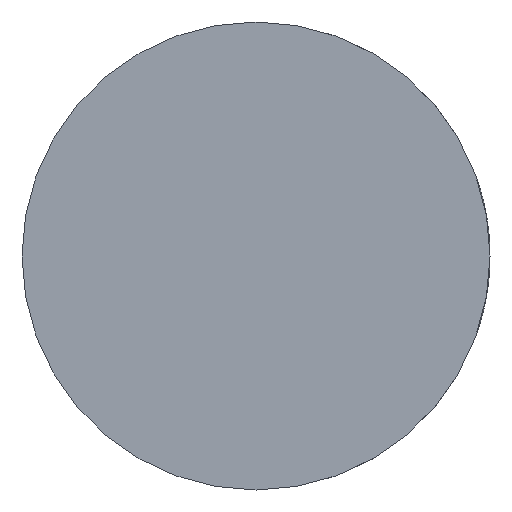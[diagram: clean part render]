
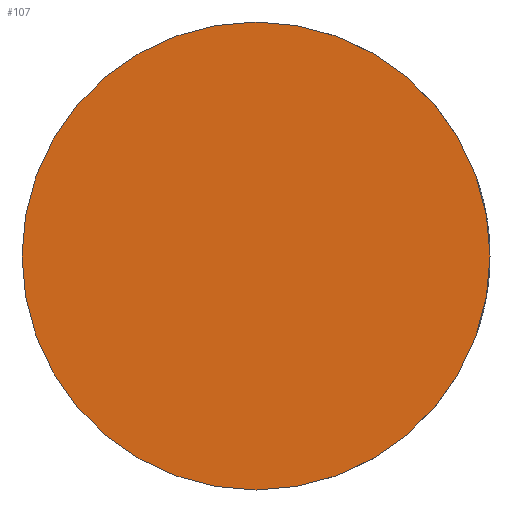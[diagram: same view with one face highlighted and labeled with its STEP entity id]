
A CAD part, front view. The second image highlights one B-rep face of the part: STEP entity #107.
In plain terms, the highlighted planar face has unit normal (0, -1, 0).
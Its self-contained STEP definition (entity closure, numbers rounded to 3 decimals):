
#61 = DIRECTION ( 'NONE',  ( 0., -1., 0. ) ) ;
#91 = DIRECTION ( 'NONE',  ( 0., -1., 0. ) ) ;
#107 = ADVANCED_FACE ( 'NONE', ( #1708 ), #794, .T. ) ;
#223 = ORIENTED_EDGE ( 'NONE', *, *, #383, .T. ) ;
#277 = AXIS2_PLACEMENT_3D ( 'NONE', #988, #61, #803 ) ;
#280 = AXIS2_PLACEMENT_3D ( 'NONE', #2187, #538, #2353 ) ;
#359 = CARTESIAN_POINT ( 'NONE',  ( 0., 0., 10. ) ) ;
#383 = EDGE_CURVE ( 'NONE', #1553, #1041, #2274, .T. ) ;
#508 = ORIENTED_EDGE ( 'NONE', *, *, #899, .T. ) ;
#538 = DIRECTION ( 'NONE',  ( 0., -1., 0. ) ) ;
#794 = PLANE ( 'NONE',  #277 ) ;
#803 = DIRECTION ( 'NONE',  ( 0., 0., -1. ) ) ;
#819 = DIRECTION ( 'NONE',  ( 0., 0., -1. ) ) ;
#899 = EDGE_CURVE ( 'NONE', #1041, #1553, #2117, .T. ) ;
#988 = CARTESIAN_POINT ( 'NONE',  ( 0., 0., 0. ) ) ;
#1041 = VERTEX_POINT ( 'NONE', #359 ) ;
#1527 = CARTESIAN_POINT ( 'NONE',  ( 0., 0., -10. ) ) ;
#1543 = AXIS2_PLACEMENT_3D ( 'NONE', #1921, #91, #819 ) ;
#1553 = VERTEX_POINT ( 'NONE', #1527 ) ;
#1708 = FACE_OUTER_BOUND ( 'NONE', #1759, .T. ) ;
#1759 = EDGE_LOOP ( 'NONE', ( #508, #223 ) ) ;
#1921 = CARTESIAN_POINT ( 'NONE',  ( 0., 0., 0. ) ) ;
#2117 = CIRCLE ( 'NONE', #1543, 10. ) ;
#2187 = CARTESIAN_POINT ( 'NONE',  ( 0., 0., 0. ) ) ;
#2274 = CIRCLE ( 'NONE', #280, 10. ) ;
#2353 = DIRECTION ( 'NONE',  ( 0., 0., -1. ) ) ;
